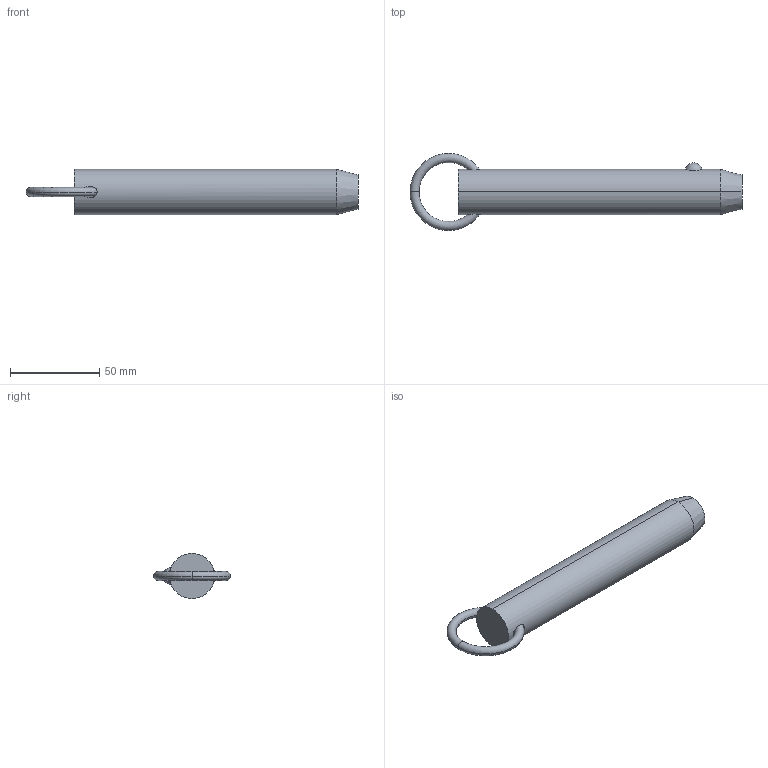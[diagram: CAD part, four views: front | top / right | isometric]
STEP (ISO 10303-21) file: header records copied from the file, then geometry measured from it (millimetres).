
FILE_DESCRIPTION (( 'STEP AP203' ), '1' );
FILE_NAME ('33010.W1045.step', '2024-11-01T10:48:11', ( '' ), ( '' ), 'SwSTEP 2.0', 'SolidWorks 2019', '' );
FILE_SCHEMA (( 'CONFIG_CONTROL_DESIGN' ));
Length unit declared in the file: millimetre
Products named in the file (3): Part1_33010.W1045; Part2_33010.W1045; 33010.W1045
Assembly tree (2 placements, depth 2):
  33010.W1045
    Part1_33010.W1045
    Part2_33010.W1045
Bounding box: 185.88 x 43.18 x 25.4 mm (x, y, z)
Volume: 80775.6 mm3; surface area: 15792.2 mm2
Topology: 2 solids, 2 shells, 18 faces, 37 edges, 22 vertices
Faces by surface type: torus 8, plane 4, sphere 2, cone 2, cylinder 2
Entity records: 975 total; most frequent: CARTESIAN_POINT 280, DIRECTION 100, ORIENTED_EDGE 74, AXIS2_PLACEMENT_3D 48, EDGE_CURVE 37, PERSON_AND_ORGANIZATION 26, CIRCLE 25, VERTEX_POINT 22
